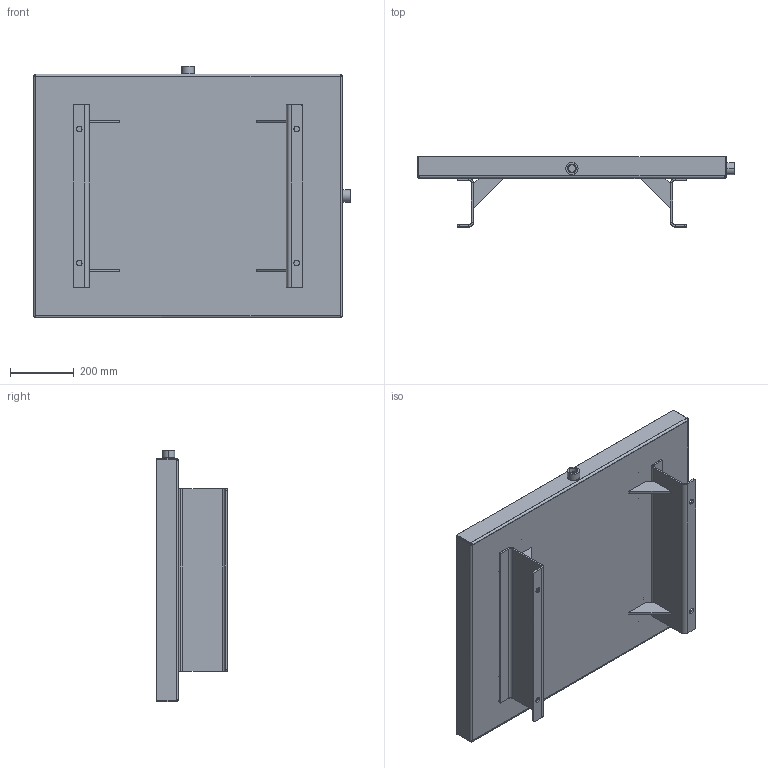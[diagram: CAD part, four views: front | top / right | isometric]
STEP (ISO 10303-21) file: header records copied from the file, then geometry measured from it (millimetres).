
FILE_DESCRIPTION (( 'STEP AP203' ), '1' );
FILE_NAME ('RJDPR015.STEP', '2015-01-07T19:38:25', ( '' ), ( '' ), 'SwSTEP 2.0', 'SolidWorks 2014', '' );
FILE_SCHEMA (( 'CONFIG_CONTROL_DESIGN' ));
Length unit declared in the file: inch
Products named in the file (1): RJDPR015
Bounding box: 990.6 x 219.07 x 787.4 mm (x, y, z)
Surface area: 2520744 mm2 (no closed solid volume)
Topology: 0 solids, 13 shells, 174 faces, 420 edges, 264 vertices
Faces by surface type: plane 94, cylinder 64, bspline 8, cone 8
Entity records: 5603 total; most frequent: CARTESIAN_POINT 1475, DIRECTION 866, ORIENTED_EDGE 752, EDGE_CURVE 420, AXIS2_PLACEMENT_3D 295, VECTOR 276, LINE 276, VERTEX_POINT 264
